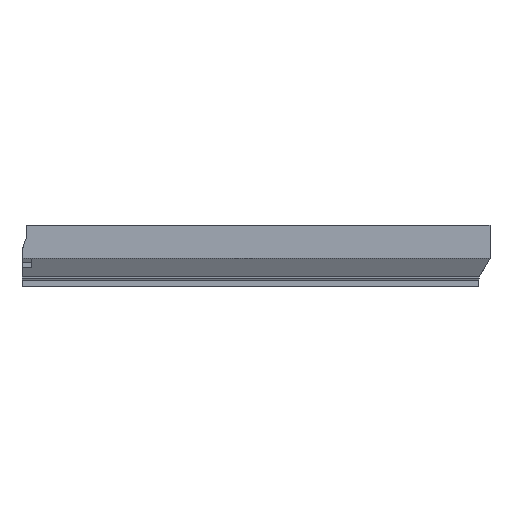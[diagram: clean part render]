
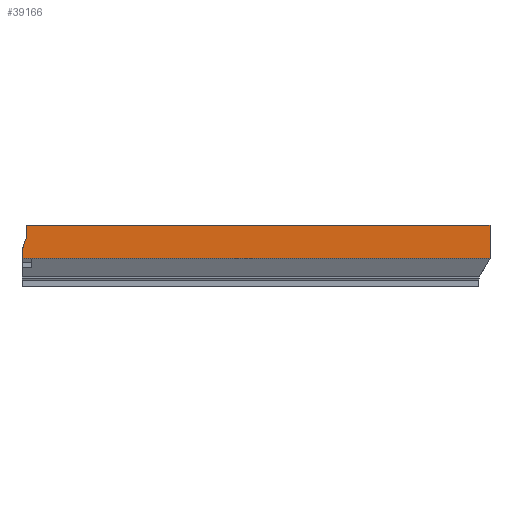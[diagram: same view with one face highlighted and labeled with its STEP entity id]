
A CAD part, front view. The second image highlights one B-rep face of the part: STEP entity #39166.
In plain terms, the highlighted planar face has unit normal (0, -1, 0).
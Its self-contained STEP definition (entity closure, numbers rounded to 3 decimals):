
#7398 = PLANE('',#7399);
#7399 = AXIS2_PLACEMENT_3D('',#7400,#7401,#7402);
#7400 = CARTESIAN_POINT('',(0.,-3.198,26.));
#7401 = DIRECTION('',(0.,0.,1.));
#7402 = DIRECTION('',(1.,0.,-0.));
#21805 = VERTEX_POINT('',#21806);
#21806 = CARTESIAN_POINT('',(2.1,-180.5,26.));
#21819 = PLANE('',#21820);
#21820 = AXIS2_PLACEMENT_3D('',#21821,#21822,#21823);
#21821 = CARTESIAN_POINT('',(2.1,-179.6,38.));
#21822 = DIRECTION('',(-1.,0.,0.));
#21823 = DIRECTION('',(0.,-1.,0.));
#21830 = EDGE_CURVE('',#21805,#21831,#21833,.T.);
#21831 = VERTEX_POINT('',#21832);
#21832 = CARTESIAN_POINT('',(196.5,-180.5,26.));
#21833 = SURFACE_CURVE('',#21834,(#21838,#21845),.PCURVE_S1.);
#21834 = LINE('',#21835,#21836);
#21835 = CARTESIAN_POINT('',(-196.5,-180.5,26.));
#21836 = VECTOR('',#21837,1.);
#21837 = DIRECTION('',(1.,0.,0.));
#21838 = PCURVE('',#7398,#21839);
#21839 = DEFINITIONAL_REPRESENTATION('',(#21840),#21844);
#21840 = LINE('',#21841,#21842);
#21841 = CARTESIAN_POINT('',(-196.5,-177.302));
#21842 = VECTOR('',#21843,1.);
#21843 = DIRECTION('',(1.,0.));
#21844 = ( GEOMETRIC_REPRESENTATION_CONTEXT(2) 
PARAMETRIC_REPRESENTATION_CONTEXT() REPRESENTATION_CONTEXT('2D SPACE',''
  ) );
#21845 = PCURVE('',#21846,#21851);
#21846 = PLANE('',#21847);
#21847 = AXIS2_PLACEMENT_3D('',#21848,#21849,#21850);
#21848 = CARTESIAN_POINT('',(-196.5,-180.5,12.));
#21849 = DIRECTION('',(0.,1.,0.));
#21850 = DIRECTION('',(1.,0.,0.));
#21851 = DEFINITIONAL_REPRESENTATION('',(#21852),#21856);
#21852 = LINE('',#21853,#21854);
#21853 = CARTESIAN_POINT('',(0.,-14.));
#21854 = VECTOR('',#21855,1.);
#21855 = DIRECTION('',(1.,0.));
#21856 = ( GEOMETRIC_REPRESENTATION_CONTEXT(2) 
PARAMETRIC_REPRESENTATION_CONTEXT() REPRESENTATION_CONTEXT('2D SPACE',''
  ) );
#21874 = PLANE('',#21875);
#21875 = AXIS2_PLACEMENT_3D('',#21876,#21877,#21878);
#21876 = CARTESIAN_POINT('',(196.5,-180.5,12.));
#21877 = DIRECTION('',(-1.,0.,0.));
#21878 = DIRECTION('',(0.,1.,0.));
#22049 = B_SPLINE_SURFACE_WITH_KNOTS('',1,1,(
    (#22050,#22051)
    ,(#22052,#22053
    )),.UNSPECIFIED.,.F.,.F.,.F.,(2,2),(2,2),(0.,393.),(0.,1.),
  .PIECEWISE_BEZIER_KNOTS.);
#22050 = CARTESIAN_POINT('',(-192.,-176.,4.2));
#22051 = CARTESIAN_POINT('',(-196.5,-180.5,12.));
#22052 = CARTESIAN_POINT('',(192.,-176.,4.2));
#22053 = CARTESIAN_POINT('',(196.5,-180.5,12.));
#38538 = VERTEX_POINT('',#38539);
#38539 = CARTESIAN_POINT('',(196.5,-180.5,12.));
#38858 = PLANE('',#38859);
#38859 = AXIS2_PLACEMENT_3D('',#38860,#38861,#38862);
#38860 = CARTESIAN_POINT('',(0.1,-179.6,8.));
#38861 = DIRECTION('',(-1.,0.,0.));
#38862 = DIRECTION('',(0.,-1.,0.));
#38884 = PLANE('',#38885);
#38885 = AXIS2_PLACEMENT_3D('',#38886,#38887,#38888);
#38886 = CARTESIAN_POINT('',(2.1,-179.6,21.));
#38887 = DIRECTION('',(-0.94,0.,0.342));
#38888 = DIRECTION('',(0.,-1.,0.));
#39104 = EDGE_CURVE('',#38538,#21831,#39105,.T.);
#39105 = SURFACE_CURVE('',#39106,(#39110,#39117),.PCURVE_S1.);
#39106 = LINE('',#39107,#39108);
#39107 = CARTESIAN_POINT('',(196.5,-180.5,12.));
#39108 = VECTOR('',#39109,1.);
#39109 = DIRECTION('',(0.,0.,1.));
#39110 = PCURVE('',#21874,#39111);
#39111 = DEFINITIONAL_REPRESENTATION('',(#39112),#39116);
#39112 = LINE('',#39113,#39114);
#39113 = CARTESIAN_POINT('',(0.,0.));
#39114 = VECTOR('',#39115,1.);
#39115 = DIRECTION('',(0.,-1.));
#39116 = ( GEOMETRIC_REPRESENTATION_CONTEXT(2) 
PARAMETRIC_REPRESENTATION_CONTEXT() REPRESENTATION_CONTEXT('2D SPACE',''
  ) );
#39117 = PCURVE('',#21846,#39118);
#39118 = DEFINITIONAL_REPRESENTATION('',(#39119),#39123);
#39119 = LINE('',#39120,#39121);
#39120 = CARTESIAN_POINT('',(393.,0.));
#39121 = VECTOR('',#39122,1.);
#39122 = DIRECTION('',(0.,-1.));
#39123 = ( GEOMETRIC_REPRESENTATION_CONTEXT(2) 
PARAMETRIC_REPRESENTATION_CONTEXT() REPRESENTATION_CONTEXT('2D SPACE',''
  ) );
#39166 = ADVANCED_FACE('',(#39167),#21846,.F.);
#39167 = FACE_BOUND('',#39168,.F.);
#39168 = EDGE_LOOP('',(#39169,#39190,#39191,#39192,#39215,#39236));
#39169 = ORIENTED_EDGE('',*,*,#39170,.T.);
#39170 = EDGE_CURVE('',#39171,#21805,#39173,.T.);
#39171 = VERTEX_POINT('',#39172);
#39172 = CARTESIAN_POINT('',(2.1,-180.5,21.));
#39173 = SURFACE_CURVE('',#39174,(#39178,#39184),.PCURVE_S1.);
#39174 = LINE('',#39175,#39176);
#39175 = CARTESIAN_POINT('',(2.1,-180.5,25.));
#39176 = VECTOR('',#39177,1.);
#39177 = DIRECTION('',(0.,-0.,1.));
#39178 = PCURVE('',#21846,#39179);
#39179 = DEFINITIONAL_REPRESENTATION('',(#39180),#39183);
#39180 = B_SPLINE_CURVE_WITH_KNOTS('',1,(#39181,#39182),.UNSPECIFIED.,
  .F.,.F.,(2,2),(-4.,1.),.PIECEWISE_BEZIER_KNOTS.);
#39181 = CARTESIAN_POINT('',(198.6,-9.));
#39182 = CARTESIAN_POINT('',(198.6,-14.));
#39183 = ( GEOMETRIC_REPRESENTATION_CONTEXT(2) 
PARAMETRIC_REPRESENTATION_CONTEXT() REPRESENTATION_CONTEXT('2D SPACE',''
  ) );
#39184 = PCURVE('',#21819,#39185);
#39185 = DEFINITIONAL_REPRESENTATION('',(#39186),#39189);
#39186 = B_SPLINE_CURVE_WITH_KNOTS('',1,(#39187,#39188),.UNSPECIFIED.,
  .F.,.F.,(2,2),(-4.,1.),.PIECEWISE_BEZIER_KNOTS.);
#39187 = CARTESIAN_POINT('',(0.9,-17.));
#39188 = CARTESIAN_POINT('',(0.9,-12.));
#39189 = ( GEOMETRIC_REPRESENTATION_CONTEXT(2) 
PARAMETRIC_REPRESENTATION_CONTEXT() REPRESENTATION_CONTEXT('2D SPACE',''
  ) );
#39190 = ORIENTED_EDGE('',*,*,#21830,.T.);
#39191 = ORIENTED_EDGE('',*,*,#39104,.F.);
#39192 = ORIENTED_EDGE('',*,*,#39193,.F.);
#39193 = EDGE_CURVE('',#39194,#38538,#39196,.T.);
#39194 = VERTEX_POINT('',#39195);
#39195 = CARTESIAN_POINT('',(0.1,-180.5,12.));
#39196 = SURFACE_CURVE('',#39197,(#39201,#39208),.PCURVE_S1.);
#39197 = LINE('',#39198,#39199);
#39198 = CARTESIAN_POINT('',(-196.5,-180.5,12.));
#39199 = VECTOR('',#39200,1.);
#39200 = DIRECTION('',(1.,0.,0.));
#39201 = PCURVE('',#21846,#39202);
#39202 = DEFINITIONAL_REPRESENTATION('',(#39203),#39207);
#39203 = LINE('',#39204,#39205);
#39204 = CARTESIAN_POINT('',(0.,0.));
#39205 = VECTOR('',#39206,1.);
#39206 = DIRECTION('',(1.,0.));
#39207 = ( GEOMETRIC_REPRESENTATION_CONTEXT(2) 
PARAMETRIC_REPRESENTATION_CONTEXT() REPRESENTATION_CONTEXT('2D SPACE',''
  ) );
#39208 = PCURVE('',#22049,#39209);
#39209 = DEFINITIONAL_REPRESENTATION('',(#39210),#39214);
#39210 = LINE('',#39211,#39212);
#39211 = CARTESIAN_POINT('',(0.,1.));
#39212 = VECTOR('',#39213,1.);
#39213 = DIRECTION('',(1.,0.));
#39214 = ( GEOMETRIC_REPRESENTATION_CONTEXT(2) 
PARAMETRIC_REPRESENTATION_CONTEXT() REPRESENTATION_CONTEXT('2D SPACE',''
  ) );
#39215 = ORIENTED_EDGE('',*,*,#39216,.T.);
#39216 = EDGE_CURVE('',#39194,#39217,#39219,.T.);
#39217 = VERTEX_POINT('',#39218);
#39218 = CARTESIAN_POINT('',(0.1,-180.5,15.5));
#39219 = SURFACE_CURVE('',#39220,(#39224,#39230),.PCURVE_S1.);
#39220 = LINE('',#39221,#39222);
#39221 = CARTESIAN_POINT('',(0.1,-180.5,10.));
#39222 = VECTOR('',#39223,1.);
#39223 = DIRECTION('',(0.,-0.,1.));
#39224 = PCURVE('',#21846,#39225);
#39225 = DEFINITIONAL_REPRESENTATION('',(#39226),#39229);
#39226 = B_SPLINE_CURVE_WITH_KNOTS('',1,(#39227,#39228),.UNSPECIFIED.,
  .F.,.F.,(2,2),(2.,5.5),.PIECEWISE_BEZIER_KNOTS.);
#39227 = CARTESIAN_POINT('',(196.6,0.));
#39228 = CARTESIAN_POINT('',(196.6,-3.5));
#39229 = ( GEOMETRIC_REPRESENTATION_CONTEXT(2) 
PARAMETRIC_REPRESENTATION_CONTEXT() REPRESENTATION_CONTEXT('2D SPACE',''
  ) );
#39230 = PCURVE('',#38858,#39231);
#39231 = DEFINITIONAL_REPRESENTATION('',(#39232),#39235);
#39232 = B_SPLINE_CURVE_WITH_KNOTS('',1,(#39233,#39234),.UNSPECIFIED.,
  .F.,.F.,(2,2),(2.,5.5),.PIECEWISE_BEZIER_KNOTS.);
#39233 = CARTESIAN_POINT('',(0.9,4.));
#39234 = CARTESIAN_POINT('',(0.9,7.5));
#39235 = ( GEOMETRIC_REPRESENTATION_CONTEXT(2) 
PARAMETRIC_REPRESENTATION_CONTEXT() REPRESENTATION_CONTEXT('2D SPACE',''
  ) );
#39236 = ORIENTED_EDGE('',*,*,#39237,.T.);
#39237 = EDGE_CURVE('',#39217,#39171,#39238,.T.);
#39238 = SURFACE_CURVE('',#39239,(#39243,#39249),.PCURVE_S1.);
#39239 = LINE('',#39240,#39241);
#39240 = CARTESIAN_POINT('',(-10.942,-180.5,-14.866));
#39241 = VECTOR('',#39242,1.);
#39242 = DIRECTION('',(0.342,-0.,0.94));
#39243 = PCURVE('',#21846,#39244);
#39244 = DEFINITIONAL_REPRESENTATION('',(#39245),#39248);
#39245 = B_SPLINE_CURVE_WITH_KNOTS('',1,(#39246,#39247),.UNSPECIFIED.,
  .F.,.F.,(2,2),(32.312,38.164),
  .PIECEWISE_BEZIER_KNOTS.);
#39246 = CARTESIAN_POINT('',(196.6,-3.5));
#39247 = CARTESIAN_POINT('',(198.6,-9.));
#39248 = ( GEOMETRIC_REPRESENTATION_CONTEXT(2) 
PARAMETRIC_REPRESENTATION_CONTEXT() REPRESENTATION_CONTEXT('2D SPACE',''
  ) );
#39249 = PCURVE('',#38884,#39250);
#39250 = DEFINITIONAL_REPRESENTATION('',(#39251),#39254);
#39251 = B_SPLINE_CURVE_WITH_KNOTS('',1,(#39252,#39253),.UNSPECIFIED.,
  .F.,.F.,(2,2),(32.312,38.164),
  .PIECEWISE_BEZIER_KNOTS.);
#39252 = CARTESIAN_POINT('',(0.9,-5.852));
#39253 = CARTESIAN_POINT('',(0.9,0.));
#39254 = ( GEOMETRIC_REPRESENTATION_CONTEXT(2) 
PARAMETRIC_REPRESENTATION_CONTEXT() REPRESENTATION_CONTEXT('2D SPACE',''
  ) );
